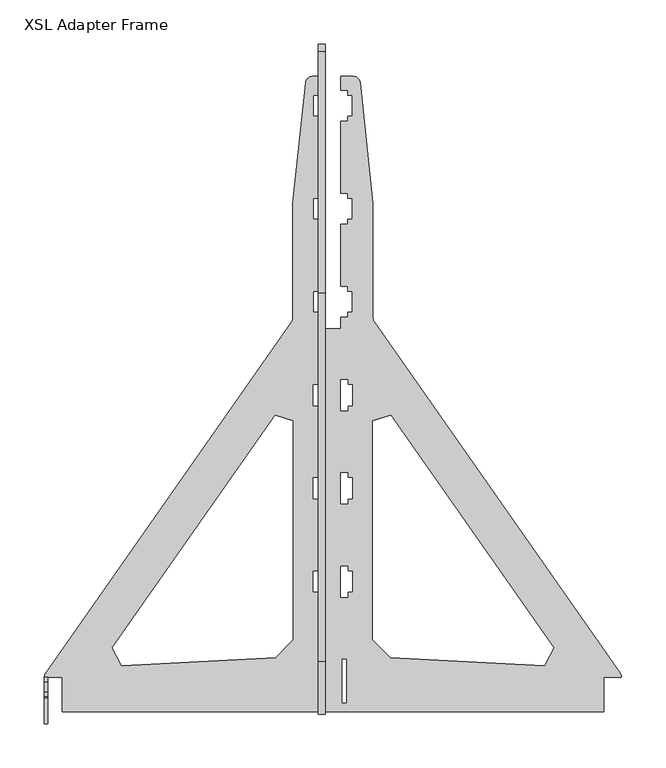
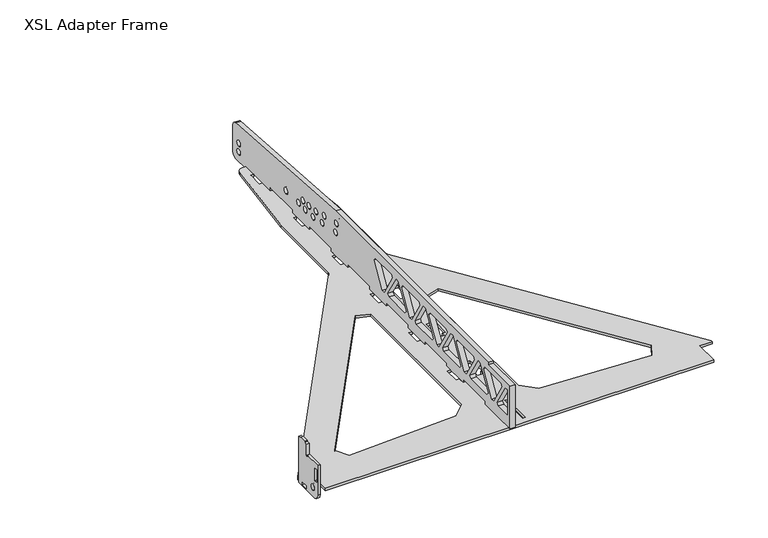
"""IFC4 building model written with IfcOpenShell, lengths in millimetres: proxy geometry, d&b SL-Series XSL SUB Adapter Frame : XSL Adapter Frame."""

import ifcopenshell
import ifcopenshell.guid

model = None  # the IFC model being written
_history = None  # IfcOwnerHistory: only IFC2X3 demands one
_inside = {}  # id of a spatial element -> (the spatial element, [elements in it])
_under = {}  # id of a project, library or spatial element -> (it, [spatial elements below it])
_declared = {}  # id of a project -> (the project, [libraries it declares])
_typed = {}  # id of a type object -> (the type object, [elements of that type])
_made_of = {}  # id of a material, layer set ... -> (it, [elements and type objects made of it])


def new_model(schema):
    """Start an empty IFC model of exactly this schema.

    Asked for "IFC4X3", IfcOpenShell would pick the latest addendum, in which some entities
    have other attributes; the version numbers below select the first issue.
    IFC2X3 requires an IfcOwnerHistory on every rooted entity: one is made here for all.
    """
    global model, _history
    if schema == "IFC4X3":
        model = ifcopenshell.file(schema_version=(4, 3, 0, 0))
    else:
        model = ifcopenshell.file(schema=schema)
    _inside.clear()
    _under.clear()
    _declared.clear()
    _typed.clear()
    _made_of.clear()
    _history = None
    if model.schema == "IFC2X3":
        org = make("IfcOrganization", Name="unknown")
        user = make(
            "IfcPersonAndOrganization",
            ThePerson=make("IfcPerson", FamilyName="unknown"),
            TheOrganization=org,
        )
        app = make(
            "IfcApplication",
            ApplicationDeveloper=org,
            Version="unknown",
            ApplicationFullName="unknown",
            ApplicationIdentifier="unknown",
        )
        _history = make(
            "IfcOwnerHistory",
            OwningUser=user,
            OwningApplication=app,
            ChangeAction="ADDED",
            CreationDate=0,
        )
    return model


def make(cls, **values):
    """One entity of the class cls with the attributes given. An attribute that is None is left unset."""
    return model.create_entity(
        cls, **{name: value for name, value in values.items() if value is not None}
    )


def rooted(cls, **values):
    """An entity with a GlobalId (a new one), such as an element, a storey or a relation."""
    return make(cls, GlobalId=ifcopenshell.guid.new(), OwnerHistory=_history, **values)


def si_unit(unit_type, name, prefix=None):
    """IfcSIUnit, for example si_unit("LENGTHUNIT", "METRE", prefix="MILLI")."""
    return make("IfcSIUnit", UnitType=unit_type, Prefix=prefix, Name=name)


def assignment(units):
    """IfcUnitAssignment: the units of a project."""
    return None if units is None else make("IfcUnitAssignment", Units=units)


def point(xyz):
    """IfcCartesianPoint."""
    return None if xyz is None else make("IfcCartesianPoint", Coordinates=xyz)


def direction(xyz):
    """IfcDirection."""
    return None if xyz is None else make("IfcDirection", DirectionRatios=xyz)


def frame(location, z_axis=None, x_axis=None):
    """IfcAxis2Placement3D, a coordinate frame: its origin and axes. An axis left out is left unset."""
    return make(
        "IfcAxis2Placement3D",
        Location=point(location),
        Axis=direction(z_axis),
        RefDirection=direction(x_axis),
    )


def frame_2d(location, x_axis=None):
    """IfcAxis2Placement2D, a coordinate frame in the plane: its origin and x axis."""
    return make(
        "IfcAxis2Placement2D", Location=point(location), RefDirection=direction(x_axis)
    )


def origin():
    """The frame at (0, 0, 0) with its axes left unset."""
    return frame((0.0, 0.0, 0.0))


def place(relative_to, where):
    """IfcLocalPlacement: puts the frame where relative to a parent placement (None: the world)."""
    return make(
        "IfcLocalPlacement", PlacementRelTo=relative_to, RelativePlacement=where
    )


def context(
    kind, dimensions, precision=None, world=None, true_north=None, identifier=None
):
    """IfcGeometricRepresentationContext, for example the 3D "Model" context."""
    return make(
        "IfcGeometricRepresentationContext",
        ContextIdentifier=identifier,
        ContextType=kind,
        CoordinateSpaceDimension=dimensions,
        Precision=precision,
        WorldCoordinateSystem=world,
        TrueNorth=true_north,
    )


def project(units=None, contexts=None):
    """IfcProject with its units and contexts."""
    return rooted(
        "IfcProject",
        Name="project",
        RepresentationContexts=contexts,
        UnitsInContext=assignment(units),
    )


def spatial(cls, under=None, at=None, **own):
    """A site, building, storey or space (cls), placed at a placement, below another one or the project."""
    s = rooted(cls, ObjectPlacement=at, **own)
    if under is not None:
        _under.setdefault(under.id(), (under, []))[1].append(s)
    return s


def polyline(points):
    """IfcPolyline through the points."""
    return make("IfcPolyline", Points=[point(p) for p in points])


def circle_curve(where, radius):
    """IfcCircle in the frame where."""
    return make("IfcCircle", Position=where, Radius=radius)


def trimmed(basis, trim1, trim2, sense, master):
    """IfcTrimmedCurve: the piece of a basis curve between two trims."""
    return make(
        "IfcTrimmedCurve",
        BasisCurve=basis,
        Trim1=trim1,
        Trim2=trim2,
        SenseAgreement=sense,
        MasterRepresentation=master,
    )


def segment(curve, same_sense, transition):
    """IfcCompositeCurveSegment."""
    return make(
        "IfcCompositeCurveSegment",
        Transition=transition,
        SameSense=same_sense,
        ParentCurve=curve,
    )


def composite_curve(segments, self_intersect=None):
    """IfcCompositeCurve: segments joined end to end."""
    return make("IfcCompositeCurve", Segments=segments, SelfIntersect=self_intersect)


def outline(outer, holes=None, kind="AREA"):
    """IfcArbitraryClosedProfileDef: a profile drawn as a closed curve; with holes, ...WithVoids."""
    if holes is None:
        return make("IfcArbitraryClosedProfileDef", ProfileType=kind, OuterCurve=outer)
    return make(
        "IfcArbitraryProfileDefWithVoids",
        ProfileType=kind,
        OuterCurve=outer,
        InnerCurves=holes,
    )


def extrude(swept, where, along, depth):
    """IfcExtrudedAreaSolid: the profile swept, set in the frame where, extruded along a direction by depth."""
    return make(
        "IfcExtrudedAreaSolid",
        SweptArea=swept,
        Position=where,
        ExtrudedDirection=direction(along),
        Depth=depth,
    )


def shape(context_of_items, identifier, shape_type, items):
    """IfcShapeRepresentation: the items that make up one representation, for example the "Body"."""
    return make(
        "IfcShapeRepresentation",
        ContextOfItems=context_of_items,
        RepresentationIdentifier=identifier,
        RepresentationType=shape_type,
        Items=items,
    )


def source(mapping_origin, context_of_items, identifier, shape_type, items):
    """IfcRepresentationMap: a shape defined once, which mapped items show again and again."""
    return make(
        "IfcRepresentationMap",
        MappingOrigin=mapping_origin,
        MappedRepresentation=shape(context_of_items, identifier, shape_type, items),
    )


def transform(
    local_origin,
    x_axis=None,
    y_axis=None,
    z_axis=None,
    scale=None,
    scale2=None,
    scale3=None,
    uniform=True,
):
    """IfcCartesianTransformationOperator3D, or its non-uniform kind. x_axis, y_axis, z_axis: its Axis1, 2, 3."""
    if uniform:
        return make(
            "IfcCartesianTransformationOperator3D",
            Axis1=direction(x_axis),
            Axis2=direction(y_axis),
            LocalOrigin=point(local_origin),
            Scale=scale,
            Axis3=direction(z_axis),
        )
    return make(
        "IfcCartesianTransformationOperator3DnonUniform",
        Axis1=direction(x_axis),
        Axis2=direction(y_axis),
        LocalOrigin=point(local_origin),
        Scale=scale,
        Axis3=direction(z_axis),
        Scale2=scale2,
        Scale3=scale3,
    )


def mapped(mapping_source, mapping_target):
    """IfcMappedItem: shows the shape of a source again, moved by a transform."""
    return make(
        "IfcMappedItem", MappingSource=mapping_source, MappingTarget=mapping_target
    )


def made_of(thing, what):
    """Note that an element or type object is made of a material, layer set ...; save() writes the relation."""
    if what is not None:
        _made_of.setdefault(what.id(), (what, []))[1].append(thing)
    return thing


def element(
    cls,
    number,
    at=None,
    inside=None,
    cuts=None,
    type_object=None,
    material=None,
    context=None,
    identifier="Body",
    shape_type=None,
    held_by="IfcProductDefinitionShape",
    body=None,
    shapes=None,
    **own,
):
    """One element of the class cls, such as IfcWall. Its Tag is "e" and its number.

    at: its placement. inside: the storey or other place that contains it. cuts: it is an
    opening in that element (IfcRelVoidsElement). A single representation is given by context,
    identifier, shape_type and body (its items); several are given by shapes. held_by: the class
    of the entity that holds the representations. save() writes the other relations.
    """
    e = rooted(cls, Tag="e%d" % number, ObjectPlacement=at, **own)
    if body is not None:
        shapes = [shape(context, identifier, shape_type, body)]
    if shapes is not None:
        e.Representation = make(held_by, Representations=shapes)
    if inside is not None:
        _inside.setdefault(inside.id(), (inside, []))[1].append(e)
    if cuts is not None:
        rooted(
            "IfcRelVoidsElement", RelatingBuildingElement=cuts, RelatedOpeningElement=e
        )
    if type_object is not None:
        _typed.setdefault(type_object.id(), (type_object, []))[1].append(e)
    return made_of(e, material)


def aggregate(whole, parts):
    """IfcRelAggregates: a whole, such as a stair, and the parts it consists of."""
    return rooted("IfcRelAggregates", RelatingObject=whole, RelatedObjects=parts)


def save(model, path):
    """Write the relations noted so far, then the file.

    IfcRelAggregates (storeys below a building ...), IfcRelContainedInSpatialStructure (elements
    in a storey), IfcRelDefinesByType, IfcRelAssociatesMaterial and IfcRelDeclares: one each for
    every whole, place, type object, material and project.
    """
    for whole, parts in _under.values():
        aggregate(whole, parts)
    for where, things in _inside.values():
        rooted(
            "IfcRelContainedInSpatialStructure",
            RelatedElements=things,
            RelatingStructure=where,
        )
    for kind, things in _typed.values():
        rooted("IfcRelDefinesByType", RelatedObjects=things, RelatingType=kind)
    for what, things in _made_of.values():
        rooted("IfcRelAssociatesMaterial", RelatedObjects=things, RelatingMaterial=what)
    for by, libraries in _declared.values():
        rooted("IfcRelDeclares", RelatingContext=by, RelatedDefinitions=libraries)
    model.write(path)


def xsl_adapter_frame_4c239690(model_context):
    return source(origin(), model_context, "Body", "SweptSolid", [
        extrude(outline(composite_curve([segment(polyline([(100.4954278, -9.2), (515.774794, -9.2), (788.0534796, -28.2395804)]), True, "CONTINUOUS"), segment(trimmed(circle_curve(frame_2d((787.4954278, -36.2200928)), 8.0), [point((788.0534796, -28.2395804))], [point((795.4954278, -36.2200928))], False, "CARTESIAN"), True, "CONTINUOUS"), segment(polyline([(795.4954278, -36.2200928), (795.4954278, -79.5)]), True, "CONTINUOUS"), segment(trimmed(circle_curve(frame_2d((787.4954278, -79.5)), 8.0), [point((795.4954278, -79.5))], [point((787.4954278, -87.5))], False, "CARTESIAN"), True, "CONTINUOUS"), segment(polyline([(787.4954278, -87.5), (759.4954278, -87.5), (759.4954278, -83.5), (692.9954278, -83.5), (692.9954278, -78.5), (632.9954278, -78.5), (632.9954278, -83.5), (587.9954278, -83.5), (587.9954278, -78.5), (527.9954278, -78.5), (527.9954278, -83.5), (482.9954278, -83.5), (482.9954278, -78.5), (422.9954278, -78.5), (422.9954278, -83.5), (377.9954278, -83.5), (377.9954278, -78.5), (317.9954278, -78.5), (317.9954278, -83.5), (272.9954278, -83.5), (272.9954278, -78.5), (212.9954278, -78.5), (212.9954278, -83.5), (167.9954278, -83.5), (167.9954278, -78.5), (107.9954278, -78.5), (107.9954278, -83.5), (40.9954278, -83.5), (40.9954278, -13.2), (100.4954278, -13.2), (100.4954278, -9.2)]), True, "CONTINUOUS")], self_intersect=False), holes=[polyline([(298.988688, -60.2952864), (276.7370031, -23.2), (271.7370031, -23.2), (249.4853181, -60.2952864), (252.6083314, -64.2), (295.8656748, -64.2), (298.988688, -60.2952864)]), polyline([(239.4853181, -64.2), (261.7370031, -27.1047136), (258.6139898, -23.2), (215.3566464, -23.2), (212.2336331, -27.1047136), (234.4853181, -64.2), (239.4853181, -64.2)]), polyline([(224.4853181, -60.2952864), (202.2336331, -23.2), (197.2336331, -23.2), (174.7789727, -60.6336624), (178.3453103, -64.2), (221.3623048, -64.2), (224.4853181, -60.2952864)]), polyline([(164.9819482, -64.2), (187.2336331, -27.1047136), (184.1106199, -23.2), (140.8532765, -23.2), (137.7302632, -27.1047136), (159.9819482, -64.2), (164.9819482, -64.2)]), polyline([(308.988688, -64.2), (313.988688, -64.2), (336.240373, -27.1047136), (333.1173597, -23.2), (289.8600163, -23.2), (286.7370031, -27.1047136), (308.988688, -64.2)]), polyline([(373.4920579, -60.2952864), (351.240373, -23.2), (346.240373, -23.2), (323.988688, -60.2952864), (327.1117013, -64.2), (370.3690447, -64.2), (373.4920579, -60.2952864)]), polyline([(383.4920579, -64.2), (388.4920579, -64.2), (410.7437429, -27.1047136), (407.6207296, -23.2), (364.3633862, -23.2), (361.240373, -27.1047136), (383.4920579, -64.2)]), polyline([(122.7302632, -23.2), (100.4785783, -60.2952864), (103.6015915, -64.2), (146.8589349, -64.2), (149.9819482, -60.2952864), (127.7302632, -23.2), (122.7302632, -23.2)]), polyline([(90.4785783, -64.2), (112.7302632, -27.1047136), (109.60725, -23.2), (66.3499066, -23.2), (63.2268933, -27.1047136), (85.4785783, -64.2), (90.4785783, -64.2)]), polyline([(48.2268933, -64.2), (72.355565, -64.2), (75.4785783, -60.2952864), (53.2268933, -23.2), (48.2268933, -23.2), (48.2268933, -64.2)]), composite_curve([segment(trimmed(circle_curve(frame_2d((651.0293359, -58.0)), 4.75), [point((651.0293359, -62.75))], [point((651.0293359, -53.25))], True, "CARTESIAN"), True, "CONTINUOUS"), segment(trimmed(circle_curve(frame_2d((651.0293359, -58.0)), 4.75), [point((651.0293359, -53.25))], [point((651.0293359, -62.75))], True, "CARTESIAN"), True, "CONTINUOUS")], self_intersect=False), composite_curve([segment(trimmed(circle_curve(frame_2d((616.7137327, -56.9749243)), 4.75), [point((616.7137327, -61.7249243))], [point((616.7137327, -52.2249243))], True, "CARTESIAN"), True, "CONTINUOUS"), segment(trimmed(circle_curve(frame_2d((616.7137327, -56.9749243)), 4.75), [point((616.7137327, -52.2249243))], [point((616.7137327, -61.7249243))], True, "CARTESIAN"), True, "CONTINUOUS")], self_intersect=False), composite_curve([segment(trimmed(circle_curve(frame_2d((604.7954278, -46.3)), 4.75), [point((604.7954278, -51.05))], [point((604.7954278, -41.55))], True, "CARTESIAN"), True, "CONTINUOUS"), segment(trimmed(circle_curve(frame_2d((604.7954278, -46.3)), 4.75), [point((604.7954278, -41.55))], [point((604.7954278, -51.05))], True, "CARTESIAN"), True, "CONTINUOUS")], self_intersect=False), composite_curve([segment(trimmed(circle_curve(frame_2d((598.3884097, -57.4956118)), 4.75), [point((598.3884097, -62.2456118))], [point((598.3884097, -52.7456118))], True, "CARTESIAN"), True, "CONTINUOUS"), segment(trimmed(circle_curve(frame_2d((598.3884097, -57.4956118)), 4.75), [point((598.3884097, -52.7456118))], [point((598.3884097, -62.2456118))], True, "CARTESIAN"), True, "CONTINUOUS")], self_intersect=False), composite_curve([segment(trimmed(circle_curve(frame_2d((588.3954278, -45.0)), 4.75), [point((588.3954278, -49.75))], [point((588.3954278, -40.25))], True, "CARTESIAN"), True, "CONTINUOUS"), segment(trimmed(circle_curve(frame_2d((588.3954278, -45.0)), 4.75), [point((588.3954278, -40.25))], [point((588.3954278, -49.75))], True, "CARTESIAN"), True, "CONTINUOUS")], self_intersect=False), composite_curve([segment(trimmed(circle_curve(frame_2d((577.0889911, -56.7735597)), 4.75), [point((577.0889911, -61.5235597))], [point((577.0889911, -52.0235597))], True, "CARTESIAN"), True, "CONTINUOUS"), segment(trimmed(circle_curve(frame_2d((577.0889911, -56.7735597)), 4.75), [point((577.0889911, -52.0235597))], [point((577.0889911, -61.5235597))], True, "CARTESIAN"), True, "CONTINUOUS")], self_intersect=False), composite_curve([segment(trimmed(circle_curve(frame_2d((569.2954278, -42.8)), 4.75), [point((569.2954278, -47.55))], [point((569.2954278, -38.05))], True, "CARTESIAN"), True, "CONTINUOUS"), segment(trimmed(circle_curve(frame_2d((569.2954278, -42.8)), 4.75), [point((569.2954278, -38.05))], [point((569.2954278, -47.55))], True, "CARTESIAN"), True, "CONTINUOUS")], self_intersect=False), composite_curve([segment(trimmed(circle_curve(frame_2d((552.2758045, -51.4682297)), 4.75), [point((552.2758045, -56.2182297))], [point((552.2758045, -46.7182297))], True, "CARTESIAN"), True, "CONTINUOUS"), segment(trimmed(circle_curve(frame_2d((552.2758045, -51.4682297)), 4.75), [point((552.2758045, -46.7182297))], [point((552.2758045, -56.2182297))], True, "CARTESIAN"), True, "CONTINUOUS")], self_intersect=False), composite_curve([segment(trimmed(circle_curve(frame_2d((546.8954278, -36.4)), 4.75), [point((546.8954278, -41.15))], [point((546.8954278, -31.65))], True, "CARTESIAN"), True, "CONTINUOUS"), segment(trimmed(circle_curve(frame_2d((546.8954278, -36.4)), 4.75), [point((546.8954278, -31.65))], [point((546.8954278, -41.15))], True, "CARTESIAN"), True, "CONTINUOUS")], self_intersect=False), composite_curve([segment(trimmed(circle_curve(frame_2d((513.8954278, -29.2)), 4.75), [point((513.8954278, -33.95))], [point((513.8954278, -24.45))], True, "CARTESIAN"), True, "CONTINUOUS"), segment(trimmed(circle_curve(frame_2d((513.8954278, -29.2)), 4.75), [point((513.8954278, -24.45))], [point((513.8954278, -33.95))], True, "CARTESIAN"), True, "CONTINUOUS")], self_intersect=False), composite_curve([segment(trimmed(circle_curve(frame_2d((515.6095359, -45.1079173)), 4.75), [point((515.6095359, -49.8579173))], [point((515.6095359, -40.3579173))], True, "CARTESIAN"), True, "CONTINUOUS"), segment(trimmed(circle_curve(frame_2d((515.6095359, -45.1079173)), 4.75), [point((515.6095359, -40.3579173))], [point((515.6095359, -49.8579173))], True, "CARTESIAN"), True, "CONTINUOUS")], self_intersect=False), composite_curve([segment(trimmed(circle_curve(frame_2d((779.4954278, -57.0)), 4.75), [point((779.4954278, -61.75))], [point((779.4954278, -52.25))], True, "CARTESIAN"), True, "CONTINUOUS"), segment(trimmed(circle_curve(frame_2d((779.4954278, -57.0)), 4.75), [point((779.4954278, -52.25))], [point((779.4954278, -61.75))], True, "CARTESIAN"), True, "CONTINUOUS")], self_intersect=False), composite_curve([segment(trimmed(circle_curve(frame_2d((779.4954278, -71.35)), 4.75), [point((779.4954278, -76.1))], [point((779.4954278, -66.6))], True, "CARTESIAN"), True, "CONTINUOUS"), segment(trimmed(circle_curve(frame_2d((779.4954278, -71.35)), 4.75), [point((779.4954278, -66.6))], [point((779.4954278, -76.1))], True, "CARTESIAN"), True, "CONTINUOUS")], self_intersect=False)]), frame((-16.75, 0.0, 0.0), z_axis=(1.0, 0.0, 0.0), x_axis=(0.0, 1.0, 0.0)), (0.0, 0.0, 1.0), 8.0),
        extrude(outline(composite_curve([segment(polyline([(30.4954278, -79.5), (30.4954278, -30.2320508), (59.0954278, -30.2320508), (59.0954278, -31.5)]), True, "CONTINUOUS"), segment(trimmed(circle_curve(frame_2d((60.0954278, -31.5)), 1.0), [point((59.0954278, -31.5))], [point((61.0954278, -31.5))], True, "CARTESIAN"), True, "CONTINUOUS"), segment(polyline([(61.0954278, -31.5), (61.0954278, -13.2), (66.0954278, -13.2), (66.0954278, -11.2), (77.0954278, -11.2), (77.0954278, -13.2), (82.4954278, -13.2), (82.4954278, -87.5950124)]), True, "CONTINUOUS"), segment(trimmed(circle_curve(frame_2d((81.4898861, -87.5950124)), 1.0055417), [point((82.4954278, -87.5950124))], [point((81.4898861, -88.6005542))], False, "CARTESIAN"), True, "CONTINUOUS"), segment(polyline([(81.4898861, -88.6005542), (72.4954278, -89.5), (40.4954278, -89.5)]), True, "CONTINUOUS"), segment(trimmed(circle_curve(frame_2d((40.4954278, -79.5)), 10.0), [point((40.4954278, -89.5))], [point((30.4954278, -79.5))], False, "CARTESIAN"), True, "CONTINUOUS")], self_intersect=False), holes=[polyline([(33.7454278, -39.2), (33.7454278, -60.25), (38.2454278, -60.25), (38.2454278, -39.2), (33.7454278, -39.2)]), polyline([(61.7454278, -83.25), (61.7454278, -87.75), (72.4954278, -87.75), (72.4954278, -83.25), (61.7454278, -83.25)]), composite_curve([segment(trimmed(circle_curve(frame_2d((43.9954278, -74.5)), 4.65), [point((43.9954278, -79.15))], [point((43.9954278, -69.85))], True, "CARTESIAN"), True, "CONTINUOUS"), segment(trimmed(circle_curve(frame_2d((43.9954278, -74.5)), 4.65), [point((43.9954278, -69.85))], [point((43.9954278, -79.15))], True, "CARTESIAN"), True, "CONTINUOUS")], self_intersect=False)]), frame((-325.0, 0.0, 0.0), z_axis=(1.0, 0.0, 0.0), x_axis=(0.0, 1.0, 0.0)), (0.0, 0.0, 1.0), 4.0),
        extrude(outline(composite_curve([segment(trimmed(circle_curve(frame_2d((317.0, 82.7454278)), 8.0), [point((323.5532164, 87.3340393))], [point((325.0, 82.7454278))], False, "CARTESIAN"), True, "CONTINUOUS"), segment(polyline([(325.0, 82.7454278), (304.9998, 82.7454278), (304.9998, 43.9954278), (-304.9998, 43.9954278), (-304.9998, 82.7454278), (-325.0, 82.7454278)]), True, "CONTINUOUS"), segment(trimmed(circle_curve(frame_2d((-317.0, 82.7454278)), 8.0), [point((-325.0, 82.7454278))], [point((-323.5532164, 87.3340393))], False, "CARTESIAN"), True, "CONTINUOUS"), segment(polyline([(-323.5532164, 87.3340393), (-46.4467836, 483.0830389)]), True, "CONTINUOUS"), segment(trimmed(circle_curve(frame_2d((-53.0, 487.6716504)), 8.0), [point((-46.4467836, 483.0830389))], [point((-45.0, 487.6716504))], True, "CARTESIAN"), True, "CONTINUOUS"), segment(polyline([(-45.0, 487.6716504), (-45.0, 616.779961), (-30.7517655, 752.3428573)]), True, "CONTINUOUS"), segment(trimmed(circle_curve(frame_2d((-22.8080311, 751.5079371)), 7.9874907), [point((-30.7517655, 752.3428573))], [point((-22.8080311, 759.4954278))], False, "CARTESIAN"), True, "CONTINUOUS"), segment(polyline([(-22.8080311, 759.4954278), (-8.75, 759.4954278), (-8.75, 743.8704278), (-16.75, 743.8704278), (-16.75, 738.1204278), (-22.0, 738.1204278), (-22.0, 714.6204278), (-16.75, 714.6204278), (-16.75, 708.8704278), (-8.75, 708.8704278), (-8.75, 627.9954278), (-16.75, 627.9954278), (-16.75, 622.2454278), (-22.0, 622.2454278), (-22.0, 598.7454278), (-16.75, 598.7454278), (-16.75, 592.9954278), (-8.75, 592.9954278), (-8.75, 522.9954278), (-16.75, 522.9954278), (-16.75, 517.2454278), (-22.0, 517.2454278), (-22.0, 493.7454278), (-16.75, 493.7454278), (-16.75, 487.9954278), (-8.75, 487.9954278), (-8.75, 475.4954278), (8.75, 475.4954278), (8.75, 487.9954278), (16.75, 487.9954278), (16.75, 493.7454278), (22.0, 493.7454278), (22.0, 517.2454278), (16.75, 517.2454278), (16.75, 522.9954278), (8.75, 522.9954278), (8.75, 592.9954278), (16.75, 592.9954278), (16.75, 598.7454278), (22.0, 598.7454278), (22.0, 622.2454278), (16.75, 622.2454278), (16.75, 627.9954278), (8.75, 627.9954278), (8.75, 708.8704278), (16.75, 708.8704278), (16.75, 714.6204278), (22.0, 714.6204278), (22.0, 738.1204278), (16.75, 738.1204278), (16.75, 743.8704278), (8.75, 743.8704278), (8.75, 759.4954278), (22.8080311, 759.4954278)]), True, "CONTINUOUS"), segment(trimmed(circle_curve(frame_2d((22.8080311, 751.5079371)), 7.9874907), [point((22.8080311, 759.4954278))], [point((30.7517655, 752.3428573))], False, "CARTESIAN"), True, "CONTINUOUS"), segment(polyline([(30.7517655, 752.3428573), (45.0, 616.779961), (45.0, 487.6716504)]), True, "CONTINUOUS"), segment(trimmed(circle_curve(frame_2d((53.0, 487.6716504)), 8.0), [point((45.0, 487.6716504))], [point((46.4467836, 483.0830389))], True, "CARTESIAN"), True, "CONTINUOUS"), segment(polyline([(46.4467836, 483.0830389), (323.5532164, 87.3340393)]), True, "CONTINUOUS")], self_intersect=False), holes=[polyline([(65.0751753, 378.0238327), (45.0, 371.6941542), (45.0, 124.7393709), (65.0, 104.7393709), (237.7710787, 95.6848223), (248.4316678, 116.1636234), (65.0751753, 378.0238327)]), polyline([(-65.0751753, 378.0238327), (-248.4316678, 116.1636234), (-237.7710787, 95.6848223), (-65.0, 104.7393709), (-45.0, 124.7393709), (-45.0, 371.6941542), (-65.0751753, 378.0238327)]), polyline([(-8.75, 312.9954278), (-16.75, 312.9954278), (-16.75, 307.2454278), (-22.0, 307.2454278), (-22.0, 283.7454278), (-16.75, 283.7454278), (-16.75, 277.9954278), (-8.75, 277.9954278), (-8.75, 312.9954278)]), polyline([(8.75, 312.9954278), (8.75, 277.9954278), (16.75, 277.9954278), (16.75, 283.7454278), (22.0, 283.7454278), (22.0, 307.2454278), (16.75, 307.2454278), (16.75, 312.9954278), (8.75, 312.9954278)]), polyline([(-8.75, 417.9954278), (-16.75, 417.9954278), (-16.75, 412.2454278), (-22.0, 412.2454278), (-22.0, 388.7454278), (-16.75, 388.7454278), (-16.75, 382.9954278), (-8.75, 382.9954278), (-8.75, 417.9954278)]), polyline([(8.75, 417.9954278), (8.75, 382.9954278), (16.75, 382.9954278), (16.75, 388.7454278), (22.0, 388.7454278), (22.0, 412.2454278), (16.75, 412.2454278), (16.75, 417.9954278), (8.75, 417.9954278)]), polyline([(-8.75, 207.9954278), (-16.75, 207.9954278), (-16.75, 202.2454278), (-22.0, 202.2454278), (-22.0, 178.7454278), (-16.75, 178.7454278), (-16.75, 172.9954278), (-8.75, 172.9954278), (-8.75, 207.9954278)]), polyline([(8.75, 207.9954278), (8.75, 172.9954278), (16.75, 172.9954278), (16.75, 178.7454278), (22.0, 178.7454278), (22.0, 202.2454278), (16.75, 202.2454278), (16.75, 207.9954278), (8.75, 207.9954278)]), polyline([(-10.75, 102.9954278), (-14.75, 102.9954278), (-14.75, 53.9954278), (-10.75, 53.9954278), (-10.75, 102.9954278)]), polyline([(14.75, 53.9954278), (14.75, 102.9954278), (10.75, 102.9954278), (10.75, 53.9954278), (14.75, 53.9954278)])]), frame((0.0, 0.0, -87.5), z_axis=(0.0, 0.0, 1.0), x_axis=(1.0, 0.0, 0.0)), (0.0, 0.0, 1.0), 4.0),
    ])


if __name__ == "__main__":
    model = new_model("IFC4")
    model_context = context("Model", 3, world=origin())
    ifc_project = project(units=[si_unit("LENGTHUNIT", "METRE", prefix="MILLI")], contexts=[model_context])
    site = spatial("IfcSite", under=ifc_project)
    building = spatial("IfcBuilding", under=site)
    placement = place(None, origin())
    xsl_adapter_frame_shape = xsl_adapter_frame_4c239690(model_context)
    element("IfcBuildingElementProxy", 1, Name="d&b SL-Series XSL SUB Adapter Frame : XSL Adapter Frame", ObjectType="d&b SL-Series XSL SUB Adapter Frame : XSL Adapter Frame", at=placement, inside=building, context=model_context, shape_type="MappedRepresentation", body=[
        mapped(xsl_adapter_frame_shape, transform((0.0, 0.0, 0.0), x_axis=(1.0, 0.0, 0.0), y_axis=(0.0, 1.0, 0.0), z_axis=(0.0, 0.0, 1.0))),
    ])
    save(model, "model.ifc")
